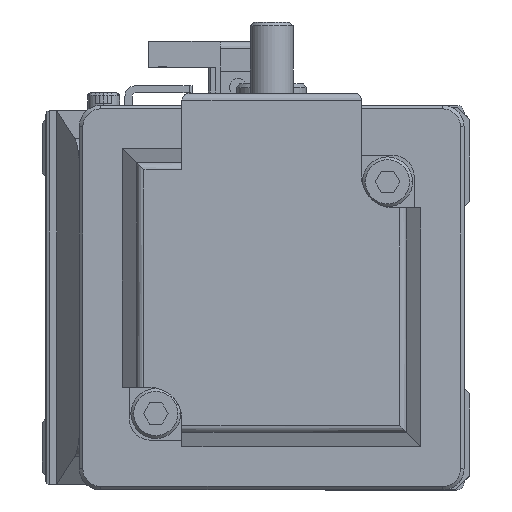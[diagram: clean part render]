
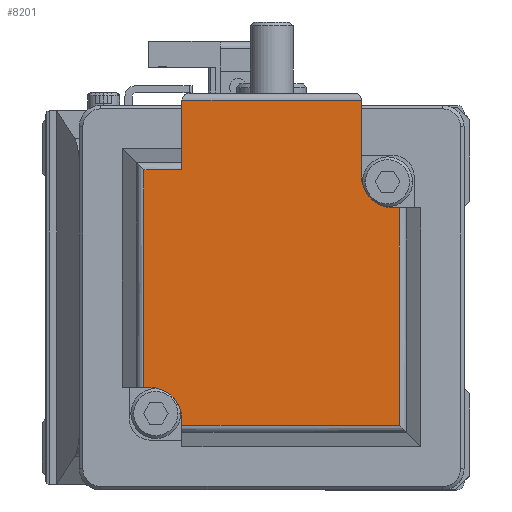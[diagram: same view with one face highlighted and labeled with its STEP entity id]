
A CAD part, left-side view. The second image highlights one B-rep face of the part: STEP entity #8201.
In plain terms, the highlighted planar face has unit normal (-1, 0, 0) as drawn and (0, 1, 0) by its records, which use the part's own axes.
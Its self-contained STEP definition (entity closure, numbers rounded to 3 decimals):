
#858 = CARTESIAN_POINT ( 'NONE',  ( 17.929, 100.6, 25. ) ) ;
#1689 = ORIENTED_EDGE ( 'NONE', *, *, #7571, .F. ) ;
#1847 = VECTOR ( 'NONE', #21651, 1000. ) ;
#2073 = CIRCLE ( 'NONE', #21800, 4.5 ) ;
#2101 = EDGE_CURVE ( 'NONE', #16199, #17706, #2073, .T. ) ;
#2568 = LINE ( 'NONE', #22657, #31930 ) ;
#3177 = CARTESIAN_POINT ( 'NONE',  ( -17.1, 100.6, -17.1 ) ) ;
#3481 = CARTESIAN_POINT ( 'NONE',  ( -17.929, 100.6, -12.6 ) ) ;
#5305 = CARTESIAN_POINT ( 'NONE',  ( 12.6, 100.6, 17.929 ) ) ;
#5648 = CARTESIAN_POINT ( 'NONE',  ( -12.6, 100.6, -21. ) ) ;
#6371 = VERTEX_POINT ( 'NONE', #9526 ) ;
#6466 = CARTESIAN_POINT ( 'NONE',  ( -17.1, 100.6, -12.6 ) ) ;
#6591 = PLANE ( 'NONE',  #26641 ) ;
#6689 = DIRECTION ( 'NONE',  ( 1., 0., 0. ) ) ;
#6758 = AXIS2_PLACEMENT_3D ( 'NONE', #3177, #27183, #13849 ) ;
#7280 = ORIENTED_EDGE ( 'NONE', *, *, #12717, .F. ) ;
#7302 = LINE ( 'NONE', #34778, #1847 ) ;
#7571 = EDGE_CURVE ( 'NONE', #15347, #16199, #25772, .T. ) ;
#7599 = DIRECTION ( 'NONE',  ( -1., 0., 0. ) ) ;
#7675 = VECTOR ( 'NONE', #33106, 1000. ) ;
#8182 = VECTOR ( 'NONE', #19893, 1000. ) ;
#8201 = ADVANCED_FACE ( 'NONE', ( #21584 ), #6591, .F. ) ;
#8376 = VERTEX_POINT ( 'NONE', #3481 ) ;
#8776 = LINE ( 'NONE', #858, #25970 ) ;
#9003 = CIRCLE ( 'NONE', #6758, 4.5 ) ;
#9301 = LINE ( 'NONE', #17590, #11391 ) ;
#9526 = CARTESIAN_POINT ( 'NONE',  ( 17.929, 100.6, -12.6 ) ) ;
#10110 = ORIENTED_EDGE ( 'NONE', *, *, #22692, .F. ) ;
#10137 = DIRECTION ( 'NONE',  ( 1., 0., 0. ) ) ;
#10207 = DIRECTION ( 'NONE',  ( 1., 0., 0. ) ) ;
#10661 = EDGE_CURVE ( 'NONE', #17706, #27445, #2568, .T. ) ;
#10666 = EDGE_CURVE ( 'NONE', #8376, #20206, #9301, .T. ) ;
#10974 = LINE ( 'NONE', #28389, #25600 ) ;
#11391 = VECTOR ( 'NONE', #6689, 1000. ) ;
#11537 = VECTOR ( 'NONE', #10207, 1000. ) ;
#12154 = CARTESIAN_POINT ( 'NONE',  ( 17.929, 100.6, -17.929 ) ) ;
#12395 = ORIENTED_EDGE ( 'NONE', *, *, #30758, .T. ) ;
#12717 = EDGE_CURVE ( 'NONE', #28561, #6371, #8776, .T. ) ;
#12767 = CARTESIAN_POINT ( 'NONE',  ( 17.929, 100.6, 12.6 ) ) ;
#13042 = VECTOR ( 'NONE', #34604, 1000. ) ;
#13415 = DIRECTION ( 'NONE',  ( 0., 1., 0. ) ) ;
#13849 = DIRECTION ( 'NONE',  ( 0., 0., -1. ) ) ;
#14399 = LINE ( 'NONE', #27698, #7675 ) ;
#14810 = ORIENTED_EDGE ( 'NONE', *, *, #34591, .F. ) ;
#14951 = CARTESIAN_POINT ( 'NONE',  ( -12.6, 100.6, -17.929 ) ) ;
#15347 = VERTEX_POINT ( 'NONE', #32395 ) ;
#16199 = VERTEX_POINT ( 'NONE', #30145 ) ;
#16478 = ORIENTED_EDGE ( 'NONE', *, *, #10666, .F. ) ;
#16851 = DIRECTION ( 'NONE',  ( 0., -1., 0. ) ) ;
#16930 = EDGE_CURVE ( 'NONE', #27445, #17255, #7302, .T. ) ;
#17133 = DIRECTION ( 'NONE',  ( 0., 0., 1. ) ) ;
#17255 = VERTEX_POINT ( 'NONE', #33927 ) ;
#17264 = ORIENTED_EDGE ( 'NONE', *, *, #27740, .T. ) ;
#17590 = CARTESIAN_POINT ( 'NONE',  ( 17.929, 100.6, -12.6 ) ) ;
#17706 = VERTEX_POINT ( 'NONE', #33763 ) ;
#19893 = DIRECTION ( 'NONE',  ( 0., 0., -1. ) ) ;
#20072 = ORIENTED_EDGE ( 'NONE', *, *, #16930, .F. ) ;
#20206 = VERTEX_POINT ( 'NONE', #6466 ) ;
#20391 = EDGE_LOOP ( 'NONE', ( #1689, #30602, #10110, #7280, #32776, #12395, #17264, #16478, #14810, #20072, #30782, #25395 ) ) ;
#20412 = EDGE_CURVE ( 'NONE', #25025, #28561, #26184, .T. ) ;
#20615 = LINE ( 'NONE', #5648, #13042 ) ;
#21454 = EDGE_CURVE ( 'NONE', #29343, #15347, #14399, .T. ) ;
#21584 = FACE_OUTER_BOUND ( 'NONE', #20391, .T. ) ;
#21651 = DIRECTION ( 'NONE',  ( -1., 0., 0. ) ) ;
#21800 = AXIS2_PLACEMENT_3D ( 'NONE', #32521, #13415, #32170 ) ;
#22438 = DIRECTION ( 'NONE',  ( 0., 0., 1. ) ) ;
#22657 = CARTESIAN_POINT ( 'NONE',  ( 12.6, 100.6, 25. ) ) ;
#22692 = EDGE_CURVE ( 'NONE', #6371, #29343, #10974, .T. ) ;
#24402 = CARTESIAN_POINT ( 'NONE',  ( 17.929, 100.6, 25. ) ) ;
#25025 = VERTEX_POINT ( 'NONE', #14951 ) ;
#25353 = LINE ( 'NONE', #30670, #8182 ) ;
#25395 = ORIENTED_EDGE ( 'NONE', *, *, #2101, .F. ) ;
#25600 = VECTOR ( 'NONE', #10137, 1000. ) ;
#25772 = LINE ( 'NONE', #12767, #26624 ) ;
#25970 = VECTOR ( 'NONE', #22438, 1000. ) ;
#26184 = LINE ( 'NONE', #29182, #11537 ) ;
#26624 = VECTOR ( 'NONE', #7599, 1000. ) ;
#26641 = AXIS2_PLACEMENT_3D ( 'NONE', #24402, #16851, #30306 ) ;
#27183 = DIRECTION ( 'NONE',  ( 0., -1., 0. ) ) ;
#27445 = VERTEX_POINT ( 'NONE', #5305 ) ;
#27698 = CARTESIAN_POINT ( 'NONE',  ( 27.7, 100.6, 25. ) ) ;
#27740 = EDGE_CURVE ( 'NONE', #34240, #20206, #9003, .T. ) ;
#28389 = CARTESIAN_POINT ( 'NONE',  ( 17.929, 100.6, -12.6 ) ) ;
#28561 = VERTEX_POINT ( 'NONE', #12154 ) ;
#29182 = CARTESIAN_POINT ( 'NONE',  ( 17.929, 100.6, -17.929 ) ) ;
#29343 = VERTEX_POINT ( 'NONE', #34731 ) ;
#30145 = CARTESIAN_POINT ( 'NONE',  ( 17.1, 100.6, 12.6 ) ) ;
#30306 = DIRECTION ( 'NONE',  ( 0., 0., -1. ) ) ;
#30602 = ORIENTED_EDGE ( 'NONE', *, *, #21454, .F. ) ;
#30670 = CARTESIAN_POINT ( 'NONE',  ( -17.929, 100.6, 25. ) ) ;
#30758 = EDGE_CURVE ( 'NONE', #25025, #34240, #20615, .T. ) ;
#30782 = ORIENTED_EDGE ( 'NONE', *, *, #10661, .F. ) ;
#31930 = VECTOR ( 'NONE', #17133, 1000. ) ;
#32170 = DIRECTION ( 'NONE',  ( 0., 0., -1. ) ) ;
#32395 = CARTESIAN_POINT ( 'NONE',  ( 27.7, 100.6, 12.6 ) ) ;
#32452 = CARTESIAN_POINT ( 'NONE',  ( -12.6, 100.6, -17.1 ) ) ;
#32521 = CARTESIAN_POINT ( 'NONE',  ( 17.1, 100.6, 17.1 ) ) ;
#32776 = ORIENTED_EDGE ( 'NONE', *, *, #20412, .F. ) ;
#33106 = DIRECTION ( 'NONE',  ( 0., 0., 1. ) ) ;
#33763 = CARTESIAN_POINT ( 'NONE',  ( 12.6, 100.6, 17.1 ) ) ;
#33927 = CARTESIAN_POINT ( 'NONE',  ( -17.929, 100.6, 17.929 ) ) ;
#34240 = VERTEX_POINT ( 'NONE', #32452 ) ;
#34591 = EDGE_CURVE ( 'NONE', #17255, #8376, #25353, .T. ) ;
#34604 = DIRECTION ( 'NONE',  ( 0., 0., 1. ) ) ;
#34731 = CARTESIAN_POINT ( 'NONE',  ( 27.7, 100.6, -12.6 ) ) ;
#34778 = CARTESIAN_POINT ( 'NONE',  ( 17.929, 100.6, 17.929 ) ) ;
